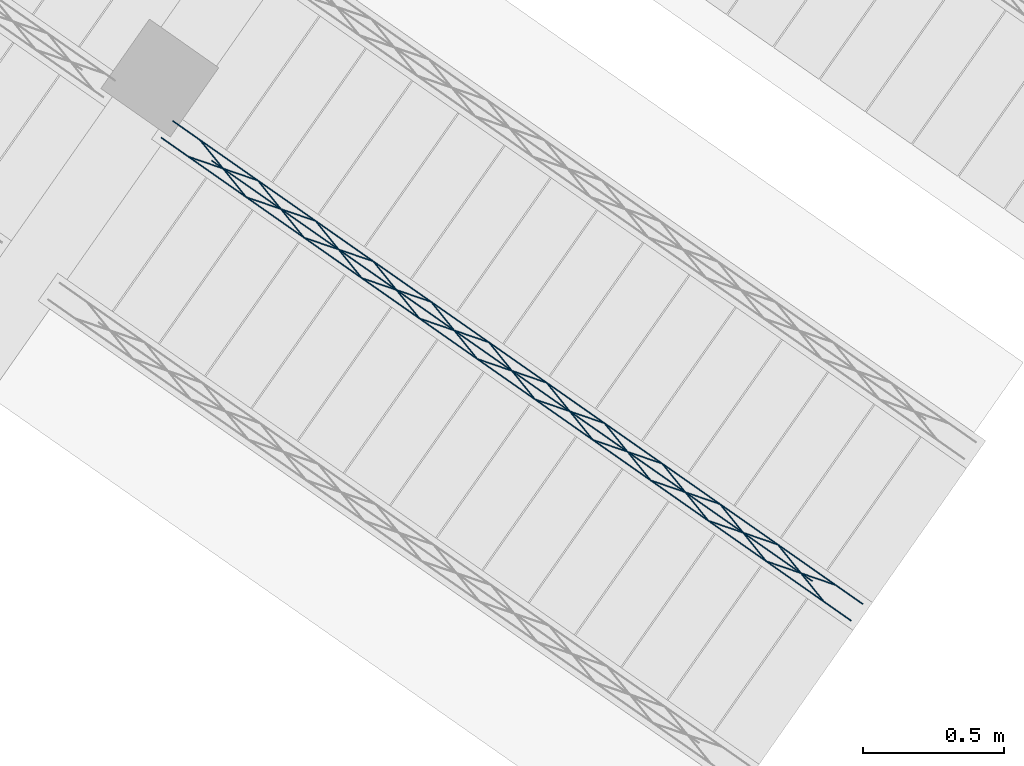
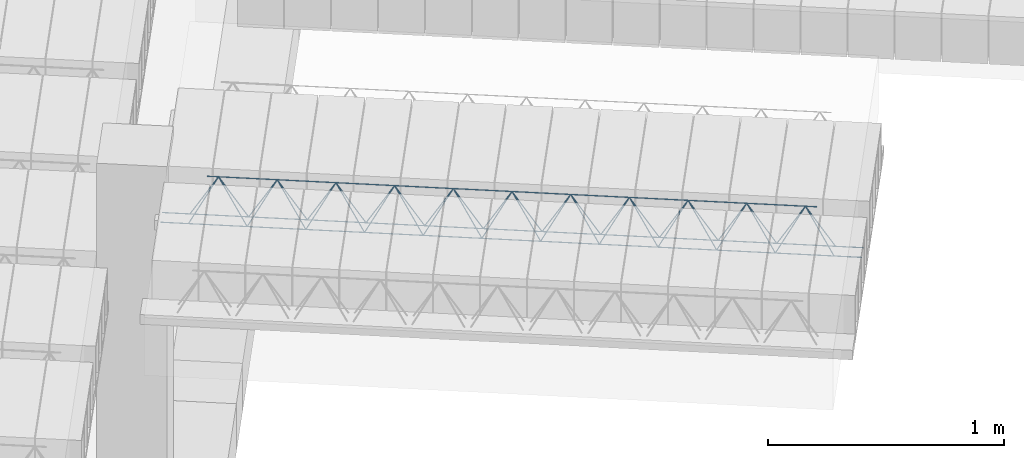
# One storey, part 6 of 80: 1 member.
"""IFC2X3 building model written with IfcOpenShell, lengths in metres."""

from ifc_helpers import new_model, entity, si_unit, converted_unit, derived_unit, direction, frame, origin, origin_2d_with_axis, place, context, subcontext, project, spatial, circle, extrude, type_object, element, save


model = new_model("IFC2X3")

# Units and contexts
model_context = context("Model", 3, precision=1e-05, world=origin(), true_north=direction((6.123031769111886e-17, 1.0)))
body_context = subcontext(model_context, "Body", "Model", "MODEL_VIEW")
ifc_project = project(units=[si_unit("LENGTHUNIT", "METRE"), si_unit("AREAUNIT", "SQUARE_METRE"), si_unit("VOLUMEUNIT", "CUBIC_METRE"), converted_unit("PLANEANGLEUNIT", "DEGREE", entity("IfcPlaneAngleMeasure", 0.017453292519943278), si_unit("PLANEANGLEUNIT", "RADIAN"), dimensions=[0, 0, 0, 0, 0, 0, 0]), si_unit("MASSUNIT", "GRAM", prefix="KILO"), derived_unit("MASSDENSITYUNIT", [(si_unit("MASSUNIT", "GRAM", prefix="KILO"), 1), (si_unit("LENGTHUNIT", "METRE"), -3)]), derived_unit("IONCONCENTRATIONUNIT", [(si_unit("MASSUNIT", "GRAM", prefix="KILO"), 1), (si_unit("LENGTHUNIT", "METRE"), -3)]), derived_unit("MOMENTOFINERTIAUNIT", [(si_unit("LENGTHUNIT", "METRE"), 4)]), si_unit("TIMEUNIT", "SECOND"), si_unit("FREQUENCYUNIT", "HERTZ"), si_unit("THERMODYNAMICTEMPERATUREUNIT", "DEGREE_CELSIUS"), derived_unit("THERMALTRANSMITTANCEUNIT", [(si_unit("MASSUNIT", "GRAM", prefix="KILO"), 1), (si_unit("THERMODYNAMICTEMPERATUREUNIT", "KELVIN"), -1), (si_unit("TIMEUNIT", "SECOND"), -3)]), derived_unit("THERMALCONDUCTANCEUNIT", [(si_unit("MASSUNIT", "GRAM", prefix="KILO"), 1), (si_unit("THERMODYNAMICTEMPERATUREUNIT", "KELVIN"), -1), (si_unit("TIMEUNIT", "SECOND"), -3), (si_unit("LENGTHUNIT", "METRE"), 1)]), derived_unit("VOLUMETRICFLOWRATEUNIT", [(si_unit("LENGTHUNIT", "METRE", prefix="DECI"), 3), (si_unit("TIMEUNIT", "SECOND"), -1)]), derived_unit("MASSFLOWRATEUNIT", [(si_unit("MASSUNIT", "GRAM", prefix="KILO"), 1), (si_unit("TIMEUNIT", "SECOND"), -1)]), derived_unit("ROTATIONALFREQUENCYUNIT", [(si_unit("TIMEUNIT", "SECOND"), -1)]), si_unit("ELECTRICCURRENTUNIT", "AMPERE"), si_unit("ELECTRICVOLTAGEUNIT", "VOLT"), si_unit("POWERUNIT", "WATT"), si_unit("FORCEUNIT", "NEWTON", prefix="KILO"), si_unit("ILLUMINANCEUNIT", "LUX"), si_unit("LUMINOUSFLUXUNIT", "LUMEN"), si_unit("LUMINOUSINTENSITYUNIT", "CANDELA"), si_unit("ENERGYUNIT", "JOULE"), derived_unit("USERDEFINED", [(si_unit("MASSUNIT", "GRAM", prefix="KILO"), -1), (si_unit("LENGTHUNIT", "METRE"), -2), (si_unit("TIMEUNIT", "SECOND"), 3), (si_unit("LUMINOUSFLUXUNIT", "LUMEN"), 1)]), derived_unit("USERDEFINED", [(si_unit("MASSUNIT", "GRAM", prefix="KILO"), 1), (si_unit("TIMEUNIT", "SECOND"), -3), (si_unit("LENGTHUNIT", "METRE"), 3), (si_unit("ELECTRICCURRENTUNIT", "AMPERE"), -2)]), derived_unit("SOUNDPOWERUNIT", [(si_unit("MASSUNIT", "GRAM", prefix="KILO"), 1), (si_unit("TIMEUNIT", "SECOND"), -3), (si_unit("LENGTHUNIT", "METRE"), 2)]), derived_unit("SOUNDPRESSUREUNIT", [(si_unit("MASSUNIT", "GRAM", prefix="KILO"), 1), (si_unit("LENGTHUNIT", "METRE"), -1), (si_unit("TIMEUNIT", "SECOND"), -2)]), derived_unit("LINEARVELOCITYUNIT", [(si_unit("LENGTHUNIT", "METRE"), 1), (si_unit("TIMEUNIT", "SECOND"), -1)]), si_unit("PRESSUREUNIT", "PASCAL"), derived_unit("USERDEFINED", [(si_unit("MASSUNIT", "GRAM", prefix="KILO"), 1), (si_unit("LENGTHUNIT", "METRE"), -2), (si_unit("TIMEUNIT", "SECOND"), -2)]), derived_unit("LINEARFORCEUNIT", [(si_unit("MASSUNIT", "GRAM", prefix="KILO"), 1), (si_unit("TIMEUNIT", "SECOND"), -2)]), derived_unit("PLANARFORCEUNIT", [(si_unit("MASSUNIT", "GRAM", prefix="KILO"), 1), (si_unit("LENGTHUNIT", "METRE"), -1), (si_unit("TIMEUNIT", "SECOND"), -2)]), derived_unit("SPECIFICHEATCAPACITYUNIT", [(si_unit("THERMODYNAMICTEMPERATUREUNIT", "KELVIN"), -1), (si_unit("LENGTHUNIT", "METRE"), 2), (si_unit("TIMEUNIT", "SECOND"), -2)]), derived_unit("HEATFLUXDENSITYUNIT", [(si_unit("MASSUNIT", "GRAM", prefix="KILO"), 1), (si_unit("TIMEUNIT", "SECOND"), -3)]), derived_unit("HEATINGVALUEUNIT", [(si_unit("LENGTHUNIT", "METRE"), 2), (si_unit("TIMEUNIT", "SECOND"), -2)]), derived_unit("VAPORPERMEABILITYUNIT", [(si_unit("LENGTHUNIT", "METRE"), -1), (si_unit("TIMEUNIT", "SECOND"), 1)]), derived_unit("DYNAMICVISCOSITYUNIT", [(si_unit("MASSUNIT", "GRAM", prefix="KILO"), 1), (si_unit("TIMEUNIT", "SECOND"), -1), (si_unit("LENGTHUNIT", "METRE"), -1)]), derived_unit("THERMALEXPANSIONCOEFFICIENTUNIT", [(si_unit("THERMODYNAMICTEMPERATUREUNIT", "KELVIN"), -1)]), derived_unit("MODULUSOFELASTICITYUNIT", [(si_unit("MASSUNIT", "GRAM", prefix="KILO"), 1), (si_unit("LENGTHUNIT", "METRE"), -1), (si_unit("TIMEUNIT", "SECOND"), -2)]), derived_unit("ISOTHERMALMOISTURECAPACITYUNIT", [(si_unit("MASSUNIT", "GRAM", prefix="KILO"), -1), (si_unit("LENGTHUNIT", "METRE"), 3)]), derived_unit("MOISTUREDIFFUSIVITYUNIT", [(si_unit("TIMEUNIT", "SECOND"), -1), (si_unit("LENGTHUNIT", "METRE"), 2)]), derived_unit("MASSPERLENGTHUNIT", [(si_unit("MASSUNIT", "GRAM", prefix="KILO"), 1), (si_unit("LENGTHUNIT", "METRE"), -1)]), derived_unit("THERMALRESISTANCEUNIT", [(si_unit("MASSUNIT", "GRAM", prefix="KILO"), -1), (si_unit("TIMEUNIT", "SECOND"), 3), (si_unit("THERMODYNAMICTEMPERATUREUNIT", "KELVIN"), 1)]), derived_unit("ACCELERATIONUNIT", [(si_unit("LENGTHUNIT", "METRE"), 1), (si_unit("TIMEUNIT", "SECOND"), -2)]), derived_unit("ANGULARVELOCITYUNIT", [(si_unit("TIMEUNIT", "SECOND"), -1), (si_unit("PLANEANGLEUNIT", "RADIAN"), 1)]), derived_unit("LINEARSTIFFNESSUNIT", [(si_unit("MASSUNIT", "GRAM", prefix="KILO"), 1), (si_unit("TIMEUNIT", "SECOND"), -2)]), derived_unit("WARPINGCONSTANTUNIT", [(si_unit("LENGTHUNIT", "METRE"), 6)]), derived_unit("LINEARMOMENTUNIT", [(si_unit("MASSUNIT", "GRAM", prefix="KILO"), 1), (si_unit("LENGTHUNIT", "METRE"), 1), (si_unit("TIMEUNIT", "SECOND"), -2)]), derived_unit("TORQUEUNIT", [(si_unit("MASSUNIT", "GRAM", prefix="KILO"), 1), (si_unit("LENGTHUNIT", "METRE"), 2), (si_unit("TIMEUNIT", "SECOND"), -2)])], contexts=[model_context])

# Site, building, storey
site_placement = place(None, origin())
site = spatial("IfcSite", under=ifc_project, at=site_placement, Name="Default", CompositionType="ELEMENT")
building_placement = place(site_placement, origin())
building = spatial("IfcBuilding", under=site, at=building_placement, CompositionType="ELEMENT")
storey_placement = place(building_placement, frame((0.0, 0.0, 95.94)))
storey = spatial("IfcBuildingStorey", under=building, at=storey_placement, Name="PB", CompositionType="ELEMENT", Elevation=95.94)

# Member
member_type = type_object("IfcMemberType", Name="Celosía (Vigueta 2 - Paño 13)", PredefinedType="NOTDEFINED")
member_placement = place(storey_placement, origin())
element("IfcMember", 1, at=member_placement, inside=storey, type_object=member_type, Name="Celosía (Vigueta 2 - Paño 13)", context=body_context, shape_type="SweptSolid", body=[
    extrude(circle(Radius=0.0025, at=origin_2d_with_axis()), frame((4.595616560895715, 0.33979629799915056, 3.3049999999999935), z_axis=(-0.8191520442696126, 0.5735764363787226, 0.0), x_axis=(-0.5735764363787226, -0.8191520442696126, 0.0)), (0.0, 0.0, 1.0), 2.9871844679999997),
    extrude(circle(Radius=0.0025, at=origin_2d_with_axis()), frame((2.3278885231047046, 1.9716244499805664, 3.5299999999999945), z_axis=(0.8191520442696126, -0.5735764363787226, 0.0), x_axis=(-0.5735764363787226, -0.8191520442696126, 0.0)), (0.0, 0.0, 1.0), 2.5999999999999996),
    extrude(circle(Radius=0.0025, at=origin_2d_with_axis()), frame((4.498471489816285, 0.4078180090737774, 3.3049999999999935), z_axis=(-0.3145304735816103, 0.389334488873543, 0.8657304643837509), x_axis=(-0.7778747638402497, -0.6284193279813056, 0.0)), (0.0, 0.0, 1.0), 0.2598961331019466),
    extrude(circle(Radius=0.0025, at=origin_2d_with_axis()), frame((4.293683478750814, 0.5512121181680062, 3.3049999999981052), z_axis=(0.47343050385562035, -0.1624017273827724, 0.8657304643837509), x_axis=(-0.3244721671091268, -0.9458952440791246, 0.0)), (0.0, 0.0, 1.0), 0.25989613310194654),
    extrude(circle(Radius=0.0025, at=origin_2d_with_axis()), frame((4.293683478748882, 0.551212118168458, 3.3049999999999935), z_axis=(-0.3145304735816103, 0.389334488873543, 0.8657304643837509), x_axis=(-0.7778747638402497, -0.6284193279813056, 0.0)), (0.0, 0.0, 1.0), 0.2598961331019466),
    extrude(circle(Radius=0.0025, at=origin_2d_with_axis()), frame((4.088895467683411, 0.6946062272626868, 3.3049999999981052), z_axis=(0.47343050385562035, -0.1624017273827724, 0.8657304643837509), x_axis=(-0.3244721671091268, -0.9458952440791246, 0.0)), (0.0, 0.0, 1.0), 0.25989613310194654),
    extrude(circle(Radius=0.0025, at=origin_2d_with_axis()), frame((4.088895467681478, 0.6946062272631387, 3.3049999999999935), z_axis=(-0.3145304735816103, 0.389334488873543, 0.8657304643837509), x_axis=(-0.7778747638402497, -0.6284193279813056, 0.0)), (0.0, 0.0, 1.0), 0.2598961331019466),
    extrude(circle(Radius=0.0025, at=origin_2d_with_axis()), frame((3.884107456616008, 0.8380003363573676, 3.3049999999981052), z_axis=(0.47343050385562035, -0.1624017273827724, 0.8657304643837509), x_axis=(-0.3244721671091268, -0.9458952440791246, 0.0)), (0.0, 0.0, 1.0), 0.25989613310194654),
    extrude(circle(Radius=0.0025, at=origin_2d_with_axis()), frame((3.8841074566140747, 0.8380003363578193, 3.3049999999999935), z_axis=(-0.3145304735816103, 0.389334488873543, 0.8657304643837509), x_axis=(-0.7778747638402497, -0.6284193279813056, 0.0)), (0.0, 0.0, 1.0), 0.2598961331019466),
    extrude(circle(Radius=0.0025, at=origin_2d_with_axis()), frame((3.6793194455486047, 0.9813944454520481, 3.3049999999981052), z_axis=(0.47343050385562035, -0.1624017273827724, 0.8657304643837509), x_axis=(-0.3244721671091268, -0.9458952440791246, 0.0)), (0.0, 0.0, 1.0), 0.25989613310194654),
    extrude(circle(Radius=0.0025, at=origin_2d_with_axis()), frame((3.6793194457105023, 0.9813944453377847, 3.3049999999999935), z_axis=(-0.3145304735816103, 0.389334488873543, 0.8657304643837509), x_axis=(-0.7778747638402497, -0.6284193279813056, 0.0)), (0.0, 0.0, 1.0), 0.2598961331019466),
    extrude(circle(Radius=0.0025, at=origin_2d_with_axis()), frame((3.474531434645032, 1.1247885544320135, 3.3049999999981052), z_axis=(0.47343050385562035, -0.1624017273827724, 0.8657304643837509), x_axis=(-0.3244721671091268, -0.9458952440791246, 0.0)), (0.0, 0.0, 1.0), 0.25989613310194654),
    extrude(circle(Radius=0.0025, at=origin_2d_with_axis()), frame((3.4745314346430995, 1.1247885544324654, 3.3049999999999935), z_axis=(-0.3145304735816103, 0.389334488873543, 0.8657304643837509), x_axis=(-0.7778747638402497, -0.6284193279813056, 0.0)), (0.0, 0.0, 1.0), 0.2598961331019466),
    extrude(circle(Radius=0.0025, at=origin_2d_with_axis()), frame((3.2697434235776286, 1.268182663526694, 3.3049999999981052), z_axis=(0.47343050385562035, -0.1624017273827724, 0.8657304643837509), x_axis=(-0.3244721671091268, -0.9458952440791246, 0.0)), (0.0, 0.0, 1.0), 0.25989613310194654),
    extrude(circle(Radius=0.0025, at=origin_2d_with_axis()), frame((3.269743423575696, 1.2681826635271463, 3.3049999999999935), z_axis=(-0.3145304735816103, 0.389334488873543, 0.8657304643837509), x_axis=(-0.7778747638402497, -0.6284193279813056, 0.0)), (0.0, 0.0, 1.0), 0.2598961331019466),
    extrude(circle(Radius=0.0025, at=origin_2d_with_axis()), frame((3.0649554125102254, 1.4115767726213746, 3.3049999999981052), z_axis=(0.47343050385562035, -0.1624017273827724, 0.8657304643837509), x_axis=(-0.3244721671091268, -0.9458952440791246, 0.0)), (0.0, 0.0, 1.0), 0.25989613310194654),
    extrude(circle(Radius=0.0025, at=origin_2d_with_axis()), frame((3.064955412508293, 1.4115767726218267, 3.3049999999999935), z_axis=(-0.3145304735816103, 0.389334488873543, 0.8657304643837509), x_axis=(-0.7778747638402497, -0.6284193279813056, 0.0)), (0.0, 0.0, 1.0), 0.2598961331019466),
    extrude(circle(Radius=0.0025, at=origin_2d_with_axis()), frame((2.8601674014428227, 1.5549708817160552, 3.3049999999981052), z_axis=(0.47343050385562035, -0.1624017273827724, 0.8657304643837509), x_axis=(-0.3244721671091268, -0.9458952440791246, 0.0)), (0.0, 0.0, 1.0), 0.25989613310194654),
    extrude(circle(Radius=0.0025, at=origin_2d_with_axis()), frame((2.8601674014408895, 1.554970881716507, 3.3049999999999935), z_axis=(-0.3145304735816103, 0.389334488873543, 0.8657304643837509), x_axis=(-0.7778747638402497, -0.6284193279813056, 0.0)), (0.0, 0.0, 1.0), 0.2598961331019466),
    extrude(circle(Radius=0.0025, at=origin_2d_with_axis()), frame((2.65537939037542, 1.6983649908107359, 3.3049999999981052), z_axis=(0.47343050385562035, -0.1624017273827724, 0.8657304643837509), x_axis=(-0.3244721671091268, -0.9458952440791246, 0.0)), (0.0, 0.0, 1.0), 0.25989613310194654),
    extrude(circle(Radius=0.0025, at=origin_2d_with_axis()), frame((2.655379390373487, 1.6983649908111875, 3.3049999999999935), z_axis=(-0.3145304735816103, 0.389334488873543, 0.8657304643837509), x_axis=(-0.7778747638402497, -0.6284193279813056, 0.0)), (0.0, 0.0, 1.0), 0.2598961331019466),
    extrude(circle(Radius=0.0025, at=origin_2d_with_axis()), frame((2.450591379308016, 1.8417590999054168, 3.3049999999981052), z_axis=(0.47343050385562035, -0.1624017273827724, 0.8657304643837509), x_axis=(-0.3244721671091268, -0.9458952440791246, 0.0)), (0.0, 0.0, 1.0), 0.25989613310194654),
    extrude(circle(Radius=0.0025, at=origin_2d_with_axis()), frame((2.450591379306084, 1.8417590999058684, 3.3049999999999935), z_axis=(-0.3145304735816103, 0.389334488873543, 0.8657304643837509), x_axis=(-0.7778747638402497, -0.6284193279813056, 0.0)), (0.0, 0.0, 1.0), 0.2598961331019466),
    extrude(circle(Radius=0.0025, at=origin_2d_with_axis()), frame((2.245803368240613, 1.9851532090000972, 3.3049999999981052), z_axis=(0.47343050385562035, -0.1624017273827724, 0.8657304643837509), x_axis=(-0.3244721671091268, -0.9458952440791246, 0.0)), (0.0, 0.0, 1.0), 0.25989613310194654),
    extrude(circle(Radius=0.0025, at=origin_2d_with_axis()), frame((4.6369140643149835, 0.39877524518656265, 3.3049999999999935), z_axis=(-0.8191520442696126, 0.5735764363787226, 0.0), x_axis=(-0.5735764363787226, -0.8191520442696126, 0.0)), (0.0, 0.0, 1.0), 2.9871844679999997),
    extrude(circle(Radius=0.0025, at=origin_2d_with_axis()), frame((4.539768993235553, 0.4667969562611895, 3.3049999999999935), z_axis=(-0.47343050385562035, 0.1624017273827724, 0.8657304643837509), x_axis=(-0.3244721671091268, -0.9458952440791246, 0.0)), (0.0, 0.0, 1.0), 0.25989613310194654),
    extrude(circle(Radius=0.0025, at=origin_2d_with_axis()), frame((4.334980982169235, 0.6101910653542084, 3.3049999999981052), z_axis=(0.3145304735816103, -0.389334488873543, 0.8657304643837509), x_axis=(-0.7778747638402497, -0.6284193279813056, 0.0)), (0.0, 0.0, 1.0), 0.2598961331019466),
    extrude(circle(Radius=0.0025, at=origin_2d_with_axis()), frame((4.334980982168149, 0.6101910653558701, 3.3049999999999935), z_axis=(-0.47343050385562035, 0.1624017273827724, 0.8657304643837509), x_axis=(-0.3244721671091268, -0.9458952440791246, 0.0)), (0.0, 0.0, 1.0), 0.25989613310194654),
    extrude(circle(Radius=0.0025, at=origin_2d_with_axis()), frame((4.130192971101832, 0.753585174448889, 3.3049999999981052), z_axis=(0.3145304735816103, -0.389334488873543, 0.8657304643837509), x_axis=(-0.7778747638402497, -0.6284193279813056, 0.0)), (0.0, 0.0, 1.0), 0.2598961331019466),
    extrude(circle(Radius=0.0025, at=origin_2d_with_axis()), frame((4.130192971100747, 0.7535851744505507, 3.3049999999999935), z_axis=(-0.47343050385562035, 0.1624017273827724, 0.8657304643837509), x_axis=(-0.3244721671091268, -0.9458952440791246, 0.0)), (0.0, 0.0, 1.0), 0.25989613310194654),
    extrude(circle(Radius=0.0025, at=origin_2d_with_axis()), frame((3.9254049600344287, 0.8969792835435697, 3.3049999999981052), z_axis=(0.3145304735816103, -0.389334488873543, 0.8657304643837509), x_axis=(-0.7778747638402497, -0.6284193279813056, 0.0)), (0.0, 0.0, 1.0), 0.2598961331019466),
    extrude(circle(Radius=0.0025, at=origin_2d_with_axis()), frame((3.925404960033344, 0.8969792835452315, 3.3049999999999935), z_axis=(-0.47343050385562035, 0.1624017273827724, 0.8657304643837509), x_axis=(-0.3244721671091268, -0.9458952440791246, 0.0)), (0.0, 0.0, 1.0), 0.25989613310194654),
    extrude(circle(Radius=0.0025, at=origin_2d_with_axis()), frame((3.7206169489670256, 1.0403733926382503, 3.3049999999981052), z_axis=(0.3145304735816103, -0.389334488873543, 0.8657304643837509), x_axis=(-0.7778747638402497, -0.6284193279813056, 0.0)), (0.0, 0.0, 1.0), 0.2598961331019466),
    extrude(circle(Radius=0.0025, at=origin_2d_with_axis()), frame((3.7206169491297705, 1.0403733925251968, 3.3049999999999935), z_axis=(-0.47343050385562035, 0.1624017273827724, 0.8657304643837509), x_axis=(-0.3244721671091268, -0.9458952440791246, 0.0)), (0.0, 0.0, 1.0), 0.25989613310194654),
    extrude(circle(Radius=0.0025, at=origin_2d_with_axis()), frame((3.5158289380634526, 1.1837675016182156, 3.3049999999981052), z_axis=(0.3145304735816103, -0.389334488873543, 0.8657304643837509), x_axis=(-0.7778747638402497, -0.6284193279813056, 0.0)), (0.0, 0.0, 1.0), 0.2598961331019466),
    extrude(circle(Radius=0.0025, at=origin_2d_with_axis()), frame((3.5158289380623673, 1.1837675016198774, 3.3049999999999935), z_axis=(-0.47343050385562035, 0.1624017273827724, 0.8657304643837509), x_axis=(-0.3244721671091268, -0.9458952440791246, 0.0)), (0.0, 0.0, 1.0), 0.25989613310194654),
    extrude(circle(Radius=0.0025, at=origin_2d_with_axis()), frame((3.3110409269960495, 1.327161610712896, 3.3049999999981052), z_axis=(0.3145304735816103, -0.389334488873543, 0.8657304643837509), x_axis=(-0.7778747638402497, -0.6284193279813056, 0.0)), (0.0, 0.0, 1.0), 0.2598961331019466),
    extrude(circle(Radius=0.0025, at=origin_2d_with_axis()), frame((3.311040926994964, 1.3271616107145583, 3.3049999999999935), z_axis=(-0.47343050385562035, 0.1624017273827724, 0.8657304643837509), x_axis=(-0.3244721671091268, -0.9458952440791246, 0.0)), (0.0, 0.0, 1.0), 0.25989613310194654),
    extrude(circle(Radius=0.0025, at=origin_2d_with_axis()), frame((3.1062529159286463, 1.470555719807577, 3.3049999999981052), z_axis=(0.3145304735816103, -0.389334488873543, 0.8657304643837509), x_axis=(-0.7778747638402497, -0.6284193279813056, 0.0)), (0.0, 0.0, 1.0), 0.2598961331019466),
    extrude(circle(Radius=0.0025, at=origin_2d_with_axis()), frame((3.1062529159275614, 1.4705557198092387, 3.3049999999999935), z_axis=(-0.47343050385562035, 0.1624017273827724, 0.8657304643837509), x_axis=(-0.3244721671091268, -0.9458952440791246, 0.0)), (0.0, 0.0, 1.0), 0.25989613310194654),
    extrude(circle(Radius=0.0025, at=origin_2d_with_axis()), frame((2.9014649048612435, 1.6139498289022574, 3.3049999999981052), z_axis=(0.3145304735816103, -0.389334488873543, 0.8657304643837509), x_axis=(-0.7778747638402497, -0.6284193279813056, 0.0)), (0.0, 0.0, 1.0), 0.2598961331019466),
    extrude(circle(Radius=0.0025, at=origin_2d_with_axis()), frame((2.9014649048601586, 1.613949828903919, 3.3049999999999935), z_axis=(-0.47343050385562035, 0.1624017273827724, 0.8657304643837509), x_axis=(-0.3244721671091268, -0.9458952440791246, 0.0)), (0.0, 0.0, 1.0), 0.25989613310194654),
    extrude(circle(Radius=0.0025, at=origin_2d_with_axis()), frame((2.696676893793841, 1.7573439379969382, 3.3049999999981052), z_axis=(0.3145304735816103, -0.389334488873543, 0.8657304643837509), x_axis=(-0.7778747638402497, -0.6284193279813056, 0.0)), (0.0, 0.0, 1.0), 0.2598961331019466),
    extrude(circle(Radius=0.0025, at=origin_2d_with_axis()), frame((2.696676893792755, 1.7573439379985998, 3.3049999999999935), z_axis=(-0.47343050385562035, 0.1624017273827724, 0.8657304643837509), x_axis=(-0.3244721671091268, -0.9458952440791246, 0.0)), (0.0, 0.0, 1.0), 0.25989613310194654),
    extrude(circle(Radius=0.0025, at=origin_2d_with_axis()), frame((2.4918888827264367, 1.900738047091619, 3.3049999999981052), z_axis=(0.3145304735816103, -0.389334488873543, 0.8657304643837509), x_axis=(-0.7778747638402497, -0.6284193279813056, 0.0)), (0.0, 0.0, 1.0), 0.2598961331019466),
    extrude(circle(Radius=0.0025, at=origin_2d_with_axis()), frame((2.491888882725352, 1.9007380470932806, 3.3049999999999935), z_axis=(-0.47343050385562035, 0.1624017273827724, 0.8657304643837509), x_axis=(-0.3244721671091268, -0.9458952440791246, 0.0)), (0.0, 0.0, 1.0), 0.25989613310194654),
    extrude(circle(Radius=0.0025, at=origin_2d_with_axis()), frame((2.287100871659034, 2.0441321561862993, 3.3049999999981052), z_axis=(0.3145304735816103, -0.389334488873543, 0.8657304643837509), x_axis=(-0.7778747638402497, -0.6284193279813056, 0.0)), (0.0, 0.0, 1.0), 0.2598961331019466),
])

save(model, "model.ifc")
